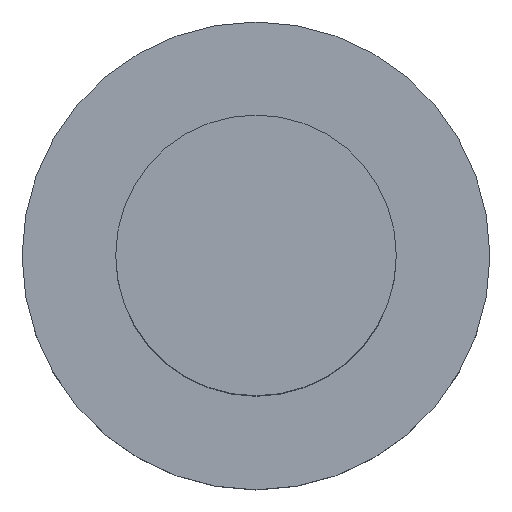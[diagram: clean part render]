
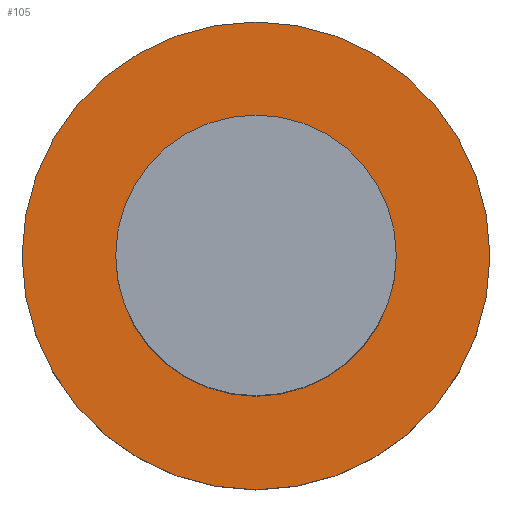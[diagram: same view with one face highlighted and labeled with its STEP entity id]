
A CAD part, top view. The second image highlights one B-rep face of the part: STEP entity #105.
In plain terms, the highlighted planar face has unit normal (0, 0, 1).
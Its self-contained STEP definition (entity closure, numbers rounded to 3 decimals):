
#21 = EDGE_CURVE('',#22,#22,#24,.T.);
#22 = VERTEX_POINT('',#23);
#23 = CARTESIAN_POINT('',(2.5,0.,1.));
#24 = SURFACE_CURVE('',#25,(#30,#42),.PCURVE_S1.);
#25 = CIRCLE('',#26,2.5);
#26 = AXIS2_PLACEMENT_3D('',#27,#28,#29);
#27 = CARTESIAN_POINT('',(0.,0.,1.));
#28 = DIRECTION('',(0.,0.,1.));
#29 = DIRECTION('',(1.,0.,-0.));
#30 = PCURVE('',#31,#36);
#31 = CYLINDRICAL_SURFACE('',#32,2.5);
#32 = AXIS2_PLACEMENT_3D('',#33,#34,#35);
#33 = CARTESIAN_POINT('',(0.,0.,0.));
#34 = DIRECTION('',(0.,0.,1.));
#35 = DIRECTION('',(1.,0.,-0.));
#36 = DEFINITIONAL_REPRESENTATION('',(#37),#41);
#37 = LINE('',#38,#39);
#38 = CARTESIAN_POINT('',(0.,1.));
#39 = VECTOR('',#40,1.);
#40 = DIRECTION('',(1.,0.));
#41 = ( GEOMETRIC_REPRESENTATION_CONTEXT(2) 
PARAMETRIC_REPRESENTATION_CONTEXT() REPRESENTATION_CONTEXT('2D SPACE',''
  ) );
#42 = PCURVE('',#43,#48);
#43 = PLANE('',#44);
#44 = AXIS2_PLACEMENT_3D('',#45,#46,#47);
#45 = CARTESIAN_POINT('',(0.,0.,1.));
#46 = DIRECTION('',(0.,0.,1.));
#47 = DIRECTION('',(1.,0.,-0.));
#48 = DEFINITIONAL_REPRESENTATION('',(#49),#53);
#49 = CIRCLE('',#50,2.5);
#50 = AXIS2_PLACEMENT_2D('',#51,#52);
#51 = CARTESIAN_POINT('',(0.,0.));
#52 = DIRECTION('',(1.,0.));
#53 = ( GEOMETRIC_REPRESENTATION_CONTEXT(2) 
PARAMETRIC_REPRESENTATION_CONTEXT() REPRESENTATION_CONTEXT('2D SPACE',''
  ) );
#105 = ADVANCED_FACE('',(#106,#109),#43,.T.);
#106 = FACE_BOUND('',#107,.T.);
#107 = EDGE_LOOP('',(#108));
#108 = ORIENTED_EDGE('',*,*,#21,.T.);
#109 = FACE_BOUND('',#110,.T.);
#110 = EDGE_LOOP('',(#111));
#111 = ORIENTED_EDGE('',*,*,#112,.F.);
#112 = EDGE_CURVE('',#113,#113,#115,.T.);
#113 = VERTEX_POINT('',#114);
#114 = CARTESIAN_POINT('',(1.5,0.,1.));
#115 = SURFACE_CURVE('',#116,(#121,#128),.PCURVE_S1.);
#116 = CIRCLE('',#117,1.5);
#117 = AXIS2_PLACEMENT_3D('',#118,#119,#120);
#118 = CARTESIAN_POINT('',(0.,0.,1.));
#119 = DIRECTION('',(0.,0.,1.));
#120 = DIRECTION('',(1.,0.,-0.));
#121 = PCURVE('',#43,#122);
#122 = DEFINITIONAL_REPRESENTATION('',(#123),#127);
#123 = CIRCLE('',#124,1.5);
#124 = AXIS2_PLACEMENT_2D('',#125,#126);
#125 = CARTESIAN_POINT('',(0.,0.));
#126 = DIRECTION('',(1.,0.));
#127 = ( GEOMETRIC_REPRESENTATION_CONTEXT(2) 
PARAMETRIC_REPRESENTATION_CONTEXT() REPRESENTATION_CONTEXT('2D SPACE',''
  ) );
#128 = PCURVE('',#129,#134);
#129 = CYLINDRICAL_SURFACE('',#130,1.5);
#130 = AXIS2_PLACEMENT_3D('',#131,#132,#133);
#131 = CARTESIAN_POINT('',(0.,0.,1.));
#132 = DIRECTION('',(0.,0.,1.));
#133 = DIRECTION('',(1.,0.,-0.));
#134 = DEFINITIONAL_REPRESENTATION('',(#135),#139);
#135 = LINE('',#136,#137);
#136 = CARTESIAN_POINT('',(0.,0.));
#137 = VECTOR('',#138,1.);
#138 = DIRECTION('',(1.,0.));
#139 = ( GEOMETRIC_REPRESENTATION_CONTEXT(2) 
PARAMETRIC_REPRESENTATION_CONTEXT() REPRESENTATION_CONTEXT('2D SPACE',''
  ) );
